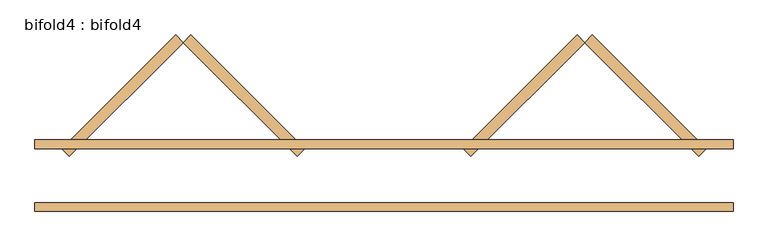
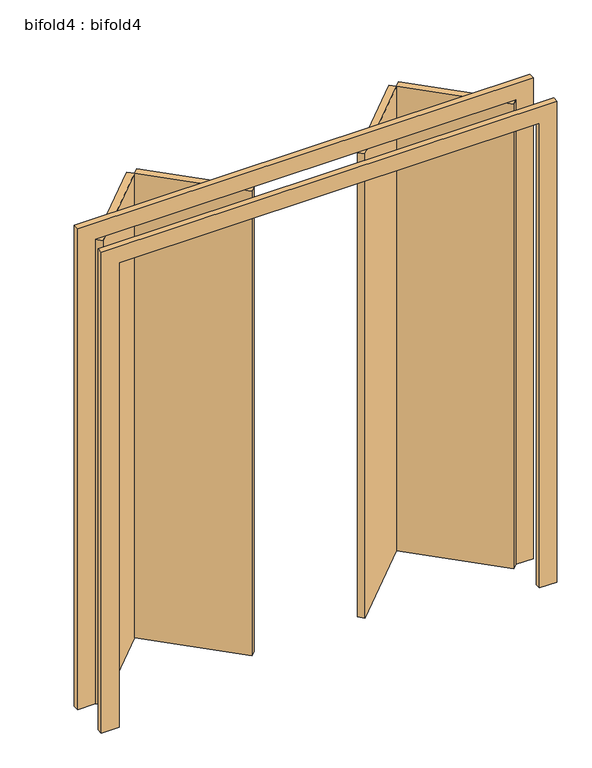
"""IFC4 building model written with IfcOpenShell, lengths in millimetres: door geometry, bifold4 : bifold4."""

from ifc_helpers import new_model, si_unit, frame, origin, origin_with_axes, place, context, project, spatial, polyline, outline, extrude, source, transform, mapped, element, save


def bifold4_bifold4_2c2d13ea(model_context):
    return source(origin(), model_context, "Body", "SweptSolid", [
        extrude(outline(polyline([(2100.0, -900.0), (2100.0, 900.0), (0.0, 900.0), (0.0, 975.0), (2175.0, 975.0), (2175.0, -975.0), (0.0, -975.0), (0.0, -900.0), (2100.0, -900.0)])), frame((0.0, 75.0, 0.0), z_axis=(0.0, 1.0, 0.0), x_axis=(0.0, 0.0, 1.0)), (0.0, 0.0, 1.0), 25.0),
        extrude(outline(polyline([(2175.0, -975.0), (0.0, -975.0), (0.0, -900.0), (2100.0, -900.0), (2100.0, 900.0), (0.0, 900.0), (0.0, 975.0), (2175.0, 975.0), (2175.0, -975.0)])), frame((0.0, -100.0, 0.0), z_axis=(0.0, 1.0, 0.0), x_axis=(0.0, 0.0, 1.0)), (0.0, 0.0, 1.0), 25.0),
        extrude(outline(polyline([(539.3755416, 393.1980515), (560.588745, 371.9848481), (242.3906935, 53.7867966), (221.1774901, 75.0), (539.3755416, 393.1980515)])), origin_with_axes(), (0.0, 0.0, 1.0), 2100.0),
        extrude(outline(polyline([(581.8019485, 393.1980515), (900.0, 75.0), (878.7867966, 53.7867966), (560.588745, 371.9848481), (581.8019485, 393.1980515)])), origin_with_axes(), (0.0, 0.0, 1.0), 2100.0),
        extrude(outline(polyline([(-539.3755416, 393.1980515), (-221.1774901, 75.0), (-242.3906935, 53.7867966), (-560.588745, 371.9848481), (-539.3755416, 393.1980515)])), origin_with_axes(), (0.0, 0.0, 1.0), 2100.0),
        extrude(outline(polyline([(-581.8019485, 393.1980515), (-560.588745, 371.9848481), (-878.7867966, 53.7867966), (-900.0, 75.0), (-581.8019485, 393.1980515)])), origin_with_axes(), (0.0, 0.0, 1.0), 2100.0),
    ])


if __name__ == "__main__":
    model = new_model("IFC4")
    model_context = context("Model", 3, world=origin())
    ifc_project = project(units=[si_unit("LENGTHUNIT", "METRE", prefix="MILLI")], contexts=[model_context])
    site = spatial("IfcSite", under=ifc_project)
    building = spatial("IfcBuilding", under=site)
    placement = place(None, origin())
    bifold4_bifold4_shape = bifold4_bifold4_2c2d13ea(model_context)
    element("IfcDoor", 1, ObjectType="bifold4 : bifold4", at=placement, inside=building, context=model_context, shape_type="MappedRepresentation", body=[
        mapped(bifold4_bifold4_shape, transform((0.0, 0.0, 0.0), x_axis=(1.0, 0.0, 0.0), y_axis=(0.0, 1.0, 0.0), z_axis=(0.0, 0.0, 1.0))),
    ])
    save(model, "model.ifc")
